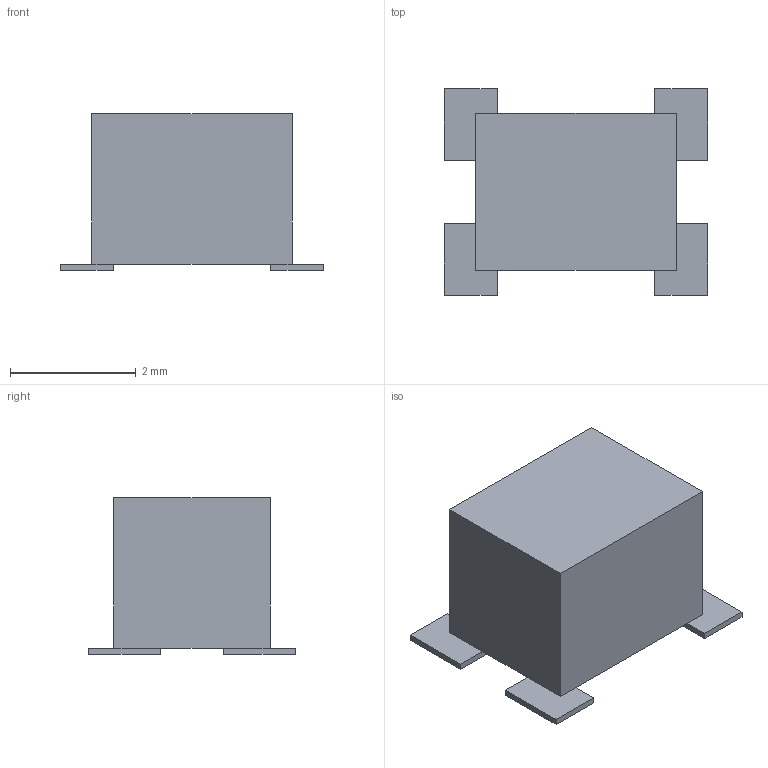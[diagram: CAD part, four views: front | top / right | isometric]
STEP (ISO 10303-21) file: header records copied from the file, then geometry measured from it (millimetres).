
FILE_DESCRIPTION(('FreeCAD Model'),'2;1');
FILE_NAME('/var/www/3D/0T/18923853.2.1.stp','2024-01-05T12:24:08',( 'Author'),(''),'Open CASCADE STEP processor 6.9','FreeCAD','Unknown' );
FILE_SCHEMA(('AUTOMOTIVE_DESIGN { 1 0 10303 214 1 1 1 1 }'));
Length unit declared in the file: millimetre
Products named in the file (3): ASSEMBLY; Body; Pins
Assembly tree (2 placements, depth 2):
  ASSEMBLY
    Body
    Pins
Bounding box: 4.19 x 3.29 x 2.5 mm (x, y, z)
Volume: 19.6 mm3; surface area: 52.6 mm2
Topology: 5 solids, 5 shells, 30 faces, 60 edges, 40 vertices
Faces by surface type: plane 30
Entity records: 1631 total; most frequent: CARTESIAN_POINT 253, DIRECTION 246, LINE 180, VECTOR 180, ORIENTED_EDGE 120, PCURVE 120, DEFINITIONAL_REPRESENTATION 120, EDGE_CURVE 60
